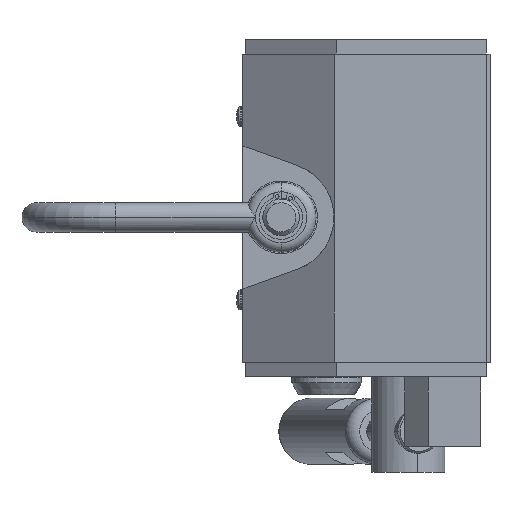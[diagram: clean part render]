
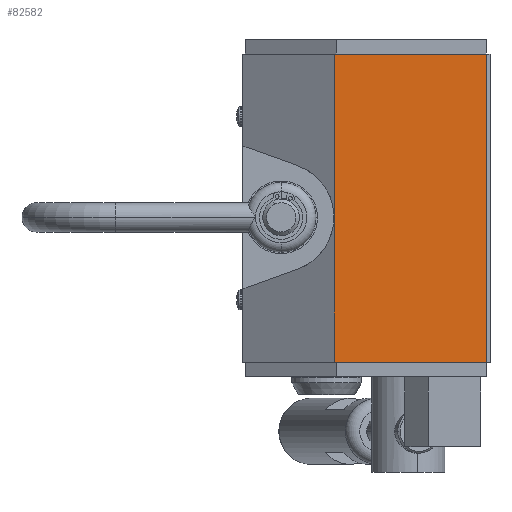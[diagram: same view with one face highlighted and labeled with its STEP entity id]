
A CAD part, left-side view. The second image highlights one B-rep face of the part: STEP entity #82582.
In plain terms, the highlighted planar face has unit normal (-1, 0, 0).
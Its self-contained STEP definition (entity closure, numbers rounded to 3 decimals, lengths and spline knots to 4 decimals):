
#281 = DIRECTION ( 'NONE',  ( 0., 1., 0. ) ) ;
#2921 = CARTESIAN_POINT ( 'NONE',  ( -1.2539, 0.7982, -1.6535 ) ) ;
#5209 = VERTEX_POINT ( 'NONE', #45118 ) ;
#5657 = LINE ( 'NONE', #50957, #53461 ) ;
#11342 = ORIENTED_EDGE ( 'NONE', *, *, #154403, .T. ) ;
#14913 = CARTESIAN_POINT ( 'NONE',  ( -1.2539, -0.8356, -1.7126 ) ) ;
#20648 = DIRECTION ( 'NONE',  ( 0., 0., -1. ) ) ;
#21528 = AXIS2_PLACEMENT_3D ( 'NONE', #84965, #109979, #111046 ) ;
#21708 = CARTESIAN_POINT ( 'NONE',  ( -1.2539, 0.7982, -1.7126 ) ) ;
#22420 = VECTOR ( 'NONE', #147162, 39.3701 ) ;
#23744 = CARTESIAN_POINT ( 'NONE',  ( -1.2539, 0.7982, -0.0984 ) ) ;
#28467 = LINE ( 'NONE', #21708, #58904 ) ;
#39262 = DIRECTION ( 'NONE',  ( 0., 0., -1. ) ) ;
#43441 = VERTEX_POINT ( 'NONE', #23744 ) ;
#45118 = CARTESIAN_POINT ( 'NONE',  ( -1.2539, 0.7982, 1.6535 ) ) ;
#48494 = EDGE_CURVE ( 'NONE', #43441, #152616, #28467, .T. ) ;
#50957 = CARTESIAN_POINT ( 'NONE',  ( -1.2539, 0.7982, -1.7126 ) ) ;
#53461 = VECTOR ( 'NONE', #39262, 39.3701 ) ;
#54831 = LINE ( 'NONE', #14913, #22420 ) ;
#58904 = VECTOR ( 'NONE', #20648, 39.3701 ) ;
#59210 = EDGE_CURVE ( 'NONE', #95132, #122364, #54831, .T. ) ;
#74279 = PLANE ( 'NONE',  #21528 ) ;
#75132 = ORIENTED_EDGE ( 'NONE', *, *, #152557, .F. ) ;
#75625 = VECTOR ( 'NONE', #88934, 39.3701 ) ;
#80421 = ORIENTED_EDGE ( 'NONE', *, *, #158022, .T. ) ;
#82582 = ADVANCED_FACE ( 'NONE', ( #147044 ), #74279, .F. ) ;
#84965 = CARTESIAN_POINT ( 'NONE',  ( -1.2539, -0.875, -1.7126 ) ) ;
#88934 = DIRECTION ( 'NONE',  ( 0., 1., 0. ) ) ;
#95132 = VERTEX_POINT ( 'NONE', #133021 ) ;
#102219 = CARTESIAN_POINT ( 'NONE',  ( -1.2539, -5., 1.6535 ) ) ;
#109979 = DIRECTION ( 'NONE',  ( 1., 0., 0. ) ) ;
#111046 = DIRECTION ( 'NONE',  ( 0., 0., -1. ) ) ;
#116006 = ORIENTED_EDGE ( 'NONE', *, *, #59210, .T. ) ;
#120404 = LINE ( 'NONE', #122424, #154703 ) ;
#122120 = EDGE_LOOP ( 'NONE', ( #80421, #11342, #131304, #75132, #116006 ) ) ;
#122364 = VERTEX_POINT ( 'NONE', #130790 ) ;
#122424 = CARTESIAN_POINT ( 'NONE',  ( -1.2539, -5., -1.6535 ) ) ;
#125193 = LINE ( 'NONE', #102219, #75625 ) ;
#130790 = CARTESIAN_POINT ( 'NONE',  ( -1.2539, -0.8356, 1.6535 ) ) ;
#131304 = ORIENTED_EDGE ( 'NONE', *, *, #48494, .T. ) ;
#133021 = CARTESIAN_POINT ( 'NONE',  ( -1.2539, -0.8356, -1.6535 ) ) ;
#147044 = FACE_OUTER_BOUND ( 'NONE', #122120, .T. ) ;
#147162 = DIRECTION ( 'NONE',  ( 0., 0., 1. ) ) ;
#152557 = EDGE_CURVE ( 'NONE', #95132, #152616, #120404, .T. ) ;
#152616 = VERTEX_POINT ( 'NONE', #2921 ) ;
#154403 = EDGE_CURVE ( 'NONE', #5209, #43441, #5657, .T. ) ;
#154703 = VECTOR ( 'NONE', #281, 39.3701 ) ;
#158022 = EDGE_CURVE ( 'NONE', #122364, #5209, #125193, .T. ) ;
